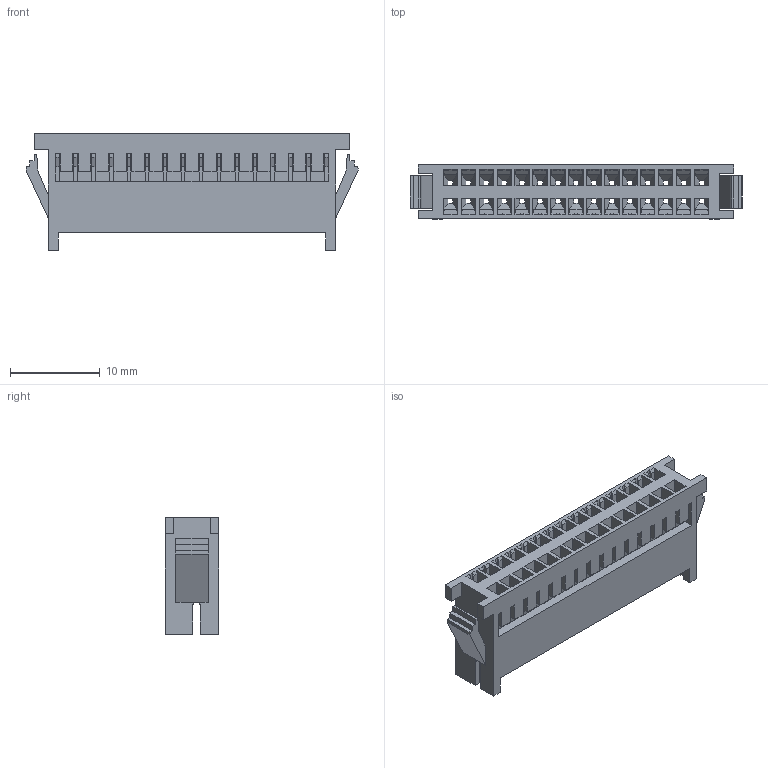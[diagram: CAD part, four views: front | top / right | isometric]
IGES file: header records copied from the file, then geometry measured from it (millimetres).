
Global section: file name: T:/3DWEB公開/NCW/DF11/DF11-#DEP-2C/DF11-30DEP-2C, ; native system: SolidDesigner 12.00  10-Sep-2003; preprocessor: OneSpace IGES_3D V1.0; author: Unknown; organization: Unknown; date: 20070322.201205; units: millimetre
Bounding box: 37 x 6 x 13 mm (x, y, z)
Volume: 1263.5 mm3; surface area: 2904.9 mm2
Topology: 1 solids, 1 shells, 842 faces, 2374 edges, 1476 vertices
Faces by surface type: bspline 842
